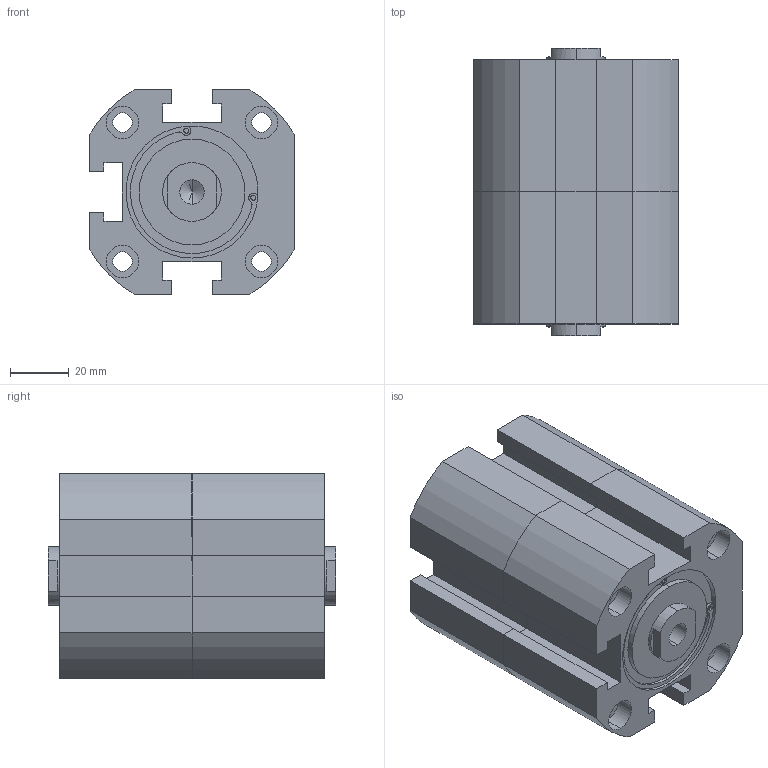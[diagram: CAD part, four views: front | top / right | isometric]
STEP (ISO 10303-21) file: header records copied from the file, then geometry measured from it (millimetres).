
FILE_DESCRIPTION (( 'STEP AP203' ), '1' );
FILE_NAME ('XGD7-50-10-10.STEP', '2016-08-05T01:44:45', ( '' ), ( '' ), 'SwSTEP 2.0', 'SolidWorks 2014', '' );
FILE_SCHEMA (( 'CONFIG_CONTROL_DESIGN' ));
Length unit declared in the file: millimetre
Products named in the file (2): XGD7-50-10-10; XG#2-50-10
Assembly tree (2 placements, depth 2):
  XGD7-50-10-10
    XG#2-50-10  x2
Bounding box: 70 x 98 x 70 mm (x, y, z)
Volume: 329503.8 mm3; surface area: 58942.1 mm2
Topology: 2 solids, 2 shells, 228 faces, 566 edges, 366 vertices
Faces by surface type: cylinder 108, plane 100, cone 20
Entity records: 3625 total; most frequent: DIRECTION 635, CARTESIAN_POINT 579, ORIENTED_EDGE 554, EDGE_CURVE 277, AXIS2_PLACEMENT_3D 239, VERTEX_POINT 183, LINE 157, VECTOR 157
